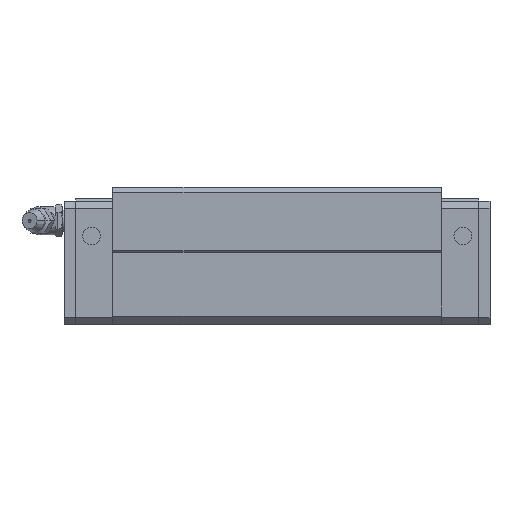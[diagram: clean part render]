
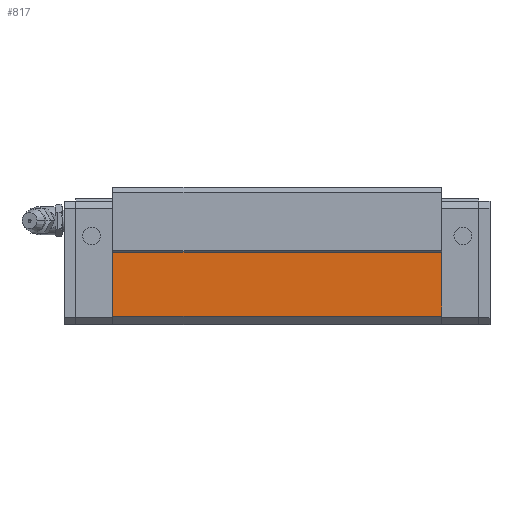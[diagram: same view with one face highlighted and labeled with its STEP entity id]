
A CAD part, front view. The second image highlights one B-rep face of the part: STEP entity #817.
In plain terms, the highlighted planar face has unit normal (0, -1, 0).
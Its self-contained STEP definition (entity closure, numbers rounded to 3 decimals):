
#756=CARTESIAN_POINT('POINT46',(106.7,-29.5,
   2.5));
#757=VERTEX_POINT('VERTEX46',#756);
#764=CARTESIAN_POINT('POINT47',(13.7,-29.5,
   2.5));
#765=VERTEX_POINT('VERTEX47',#764);
#766=CARTESIAN_POINT('POS77',(13.7,-29.5,
   2.5));
#767=DIRECTION('DIR116',(1.,0.,0.));
#768=VECTOR('VEC38',#767,1.);
#769=LINE('STRAIGHT38',#766,#768);
#770=EDGE_CURVE('EDGE76',#765,#757,#769,.T.);
#787=CARTESIAN_POINT('POINT48',(106.7,-29.5,
   20.5));
#788=VERTEX_POINT('VERTEX48',#787);
#789=CARTESIAN_POINT('POS80',(106.7,-29.5,
   2.5));
#790=DIRECTION('DIR120',(0.,0.,1.));
#791=VECTOR('VEC40',#790,1.);
#792=LINE('STRAIGHT40',#789,#791);
#793=EDGE_CURVE('EDGE78',#757,#788,#792,.T.);
#794=ORIENTED_EDGE('COEDGE143',*,*,#793,.T.);
#795=CARTESIAN_POINT('POINT49',(13.7,-29.5,
   20.5));
#796=VERTEX_POINT('VERTEX49',#795);
#797=CARTESIAN_POINT('POS81',(13.7,-29.5,
   20.5));
#798=DIRECTION('DIR121',(1.,0.,0.));
#799=VECTOR('VEC41',#798,1.);
#800=LINE('STRAIGHT41',#797,#799);
#801=EDGE_CURVE('EDGE79',#796,#788,#800,.T.);
#802=ORIENTED_EDGE('COEDGE144',*,*,#801,.F.);
#803=CARTESIAN_POINT('POS82',(13.7,-29.5,
   2.5));
#804=DIRECTION('DIR122',(0.,0.,1.));
#805=VECTOR('VEC42',#804,1.);
#806=LINE('STRAIGHT42',#803,#805);
#807=EDGE_CURVE('EDGE80',#765,#796,#806,.T.);
#808=ORIENTED_EDGE('COEDGE145',*,*,#807,.F.);
#809=ORIENTED_EDGE('COEDGE146',*,*,#770,.T.);
#810=EDGE_LOOP('NONE',(#794,#802,#808,#809));
#811=FACE_BOUND('LOOP1',#810,.T.);
#812=CARTESIAN_POINT('POS83',(13.7,-29.5,
   2.5));
#813=DIRECTION('DIR123',(0.,-1.,0.));
#814=DIRECTION('DIR124',(1.,0.,0.));
#815=AXIS2_PLACEMENT_3D('AXIS41',#812,#813,#814);
#816=PLANE('PLANE6',#815);
#817=ADVANCED_FACE('FACE38',(#811),#816,.T.);
